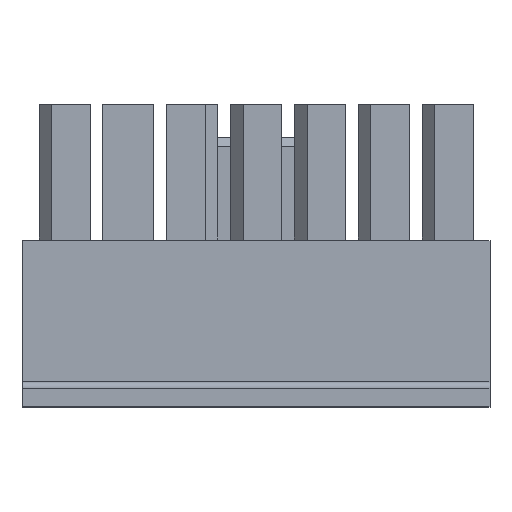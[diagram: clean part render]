
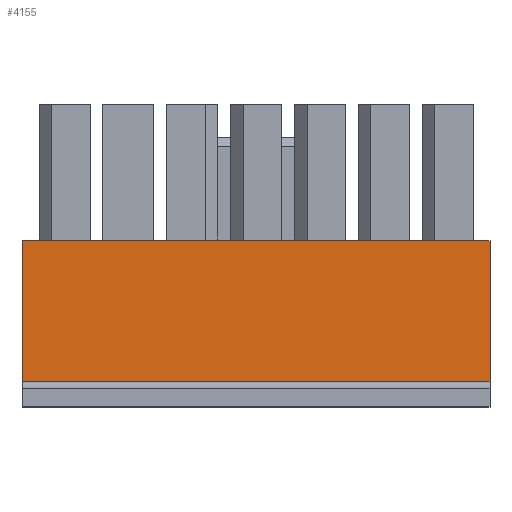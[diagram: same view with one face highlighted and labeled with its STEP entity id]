
A CAD part, top view. The second image highlights one B-rep face of the part: STEP entity #4155.
In plain terms, the highlighted planar face has unit normal (0, 0, 1).
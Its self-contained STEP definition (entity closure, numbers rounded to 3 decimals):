
#534 = EDGE_LOOP ( 'NONE', ( #2397, #2400, #2402, #2404 ) ) ;
#725 = CARTESIAN_POINT ( 'NONE',  ( 12.495, -2.98, 3.45 ) ) ;
#728 = CARTESIAN_POINT ( 'NONE',  ( -9.505, -2.98, 3.45 ) ) ;
#1101 = PLANE ( 'NONE',  #3006 ) ;
#1103 = CARTESIAN_POINT ( 'NONE',  ( -9.505, -2.98, 3.45 ) ) ;
#1107 = FACE_OUTER_BOUND ( 'NONE', #534, .T. ) ;
#1109 = DIRECTION ( 'NONE',  ( 0., 0., 1. ) ) ;
#1110 = DIRECTION ( 'NONE',  ( 1., 0., 0. ) ) ;
#2397 = ORIENTED_EDGE ( 'NONE', *, *, #6712, .F. ) ;
#2400 = ORIENTED_EDGE ( 'NONE', *, *, #6713, .F. ) ;
#2402 = ORIENTED_EDGE ( 'NONE', *, *, #6052, .T. ) ;
#2404 = ORIENTED_EDGE ( 'NONE', *, *, #6714, .F. ) ;
#2730 = VERTEX_POINT ( 'NONE', #4082 ) ;
#2796 = VERTEX_POINT ( 'NONE', #725 ) ;
#2797 = VERTEX_POINT ( 'NONE', #728 ) ;
#3006 = AXIS2_PLACEMENT_3D ( 'NONE', #1103, #1109, #1110 ) ;
#4082 = CARTESIAN_POINT ( 'NONE',  ( 12.495, 3.65, 3.45 ) ) ;
#4155 = ADVANCED_FACE ( 'NONE', ( #1107 ), #1101, .T. ) ;
#4271 = VECTOR ( 'NONE', #5043, 1000. ) ;
#4461 = VECTOR ( 'NONE', #6532, 1000. ) ;
#4462 = VECTOR ( 'NONE', #6535, 1000. ) ;
#4463 = VECTOR ( 'NONE', #6538, 1000. ) ;
#5040 = LINE ( 'NONE', #5042, #4271 ) ;
#5042 = CARTESIAN_POINT ( 'NONE',  ( -0.005, -2.98, 3.45 ) ) ;
#5043 = DIRECTION ( 'NONE',  ( 1., 0., 0. ) ) ;
#5404 = CARTESIAN_POINT ( 'NONE',  ( -9.505, 3.65, 3.45 ) ) ;
#6052 = EDGE_CURVE ( 'NONE', #2797, #2796, #5040, .T. ) ;
#6237 = VERTEX_POINT ( 'NONE', #5404 ) ;
#6530 = LINE ( 'NONE', #6531, #4461 ) ;
#6531 = CARTESIAN_POINT ( 'NONE',  ( -0.005, 3.65, 3.45 ) ) ;
#6532 = DIRECTION ( 'NONE',  ( 1., 0., 0. ) ) ;
#6533 = LINE ( 'NONE', #6534, #4462 ) ;
#6534 = CARTESIAN_POINT ( 'NONE',  ( -9.505, -0.25, 3.45 ) ) ;
#6535 = DIRECTION ( 'NONE',  ( 0., 1., 0. ) ) ;
#6536 = LINE ( 'NONE', #6537, #4463 ) ;
#6537 = CARTESIAN_POINT ( 'NONE',  ( 12.495, -0.25, 3.45 ) ) ;
#6538 = DIRECTION ( 'NONE',  ( 0., -1., 0. ) ) ;
#6712 = EDGE_CURVE ( 'NONE', #6237, #2730, #6530, .T. ) ;
#6713 = EDGE_CURVE ( 'NONE', #2797, #6237, #6533, .T. ) ;
#6714 = EDGE_CURVE ( 'NONE', #2730, #2796, #6536, .T. ) ;
